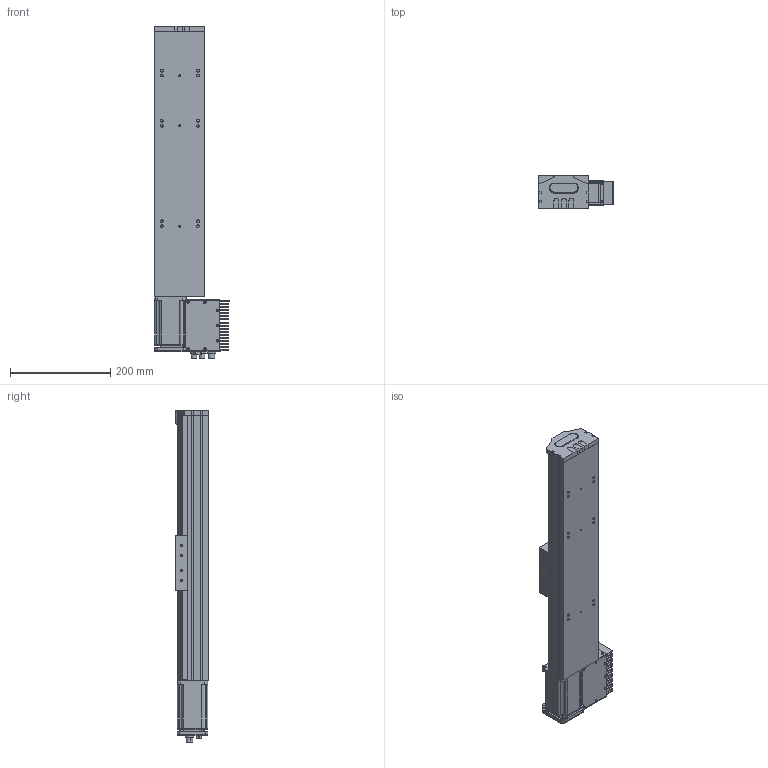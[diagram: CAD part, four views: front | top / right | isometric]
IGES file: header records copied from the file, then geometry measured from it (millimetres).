
Start section: SolidWorks IGES file using analytic representation for surfaces
Global section: file name: C:\Documents and Settings\1EDPI\Mes documents\yanize\S 10 TSH MD\S 10 TSH MD S300.IGS; native system: SolidWorks 2010; preprocessor: SolidWorks 2010; author: 1EDPI; date: 120829.104016; units: millimetre
Bounding box: 148.26 x 66.75 x 661.6 mm (x, y, z)
Surface area: 506556.1 mm2 (no closed solid volume)
Topology: 0 solids, 0 shells, 1711 faces, 23192 edges, 23164 vertices
Faces by surface type: revolution 912, bspline 799
